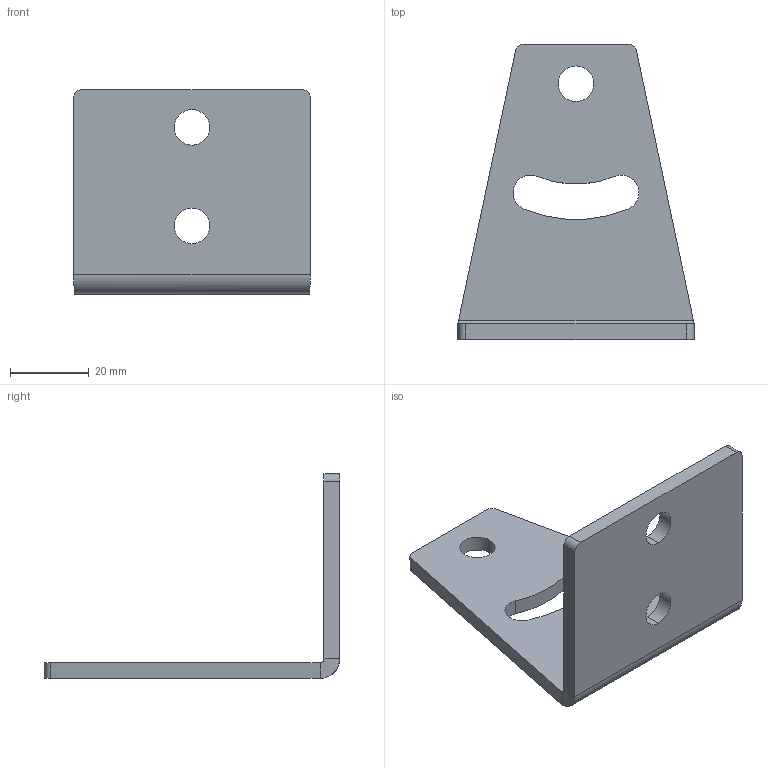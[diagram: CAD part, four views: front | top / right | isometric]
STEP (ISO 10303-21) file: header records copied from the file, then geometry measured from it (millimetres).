
FILE_DESCRIPTION (( 'STEP AP214' ), '1' );
FILE_NAME ('PL1 64.step', '2017-04-05T08:05:17', ( '' ), ( '' ), 'SwSTEP 2.0', 'SolidWorks 2015', '' );
FILE_SCHEMA (( 'AUTOMOTIVE_DESIGN' ));
Length unit declared in the file: millimetre
Products named in the file (1): PL1 64
Bounding box: 60 x 75 x 52 mm (x, y, z)
Volume: 23071.8 mm3; surface area: 13511.9 mm2
Topology: 1 solids, 1 shells, 29 faces, 73 edges, 46 vertices
Faces by surface type: cylinder 17, plane 10, bspline 2
Entity records: 969 total; most frequent: CARTESIAN_POINT 215, DIRECTION 155, ORIENTED_EDGE 146, EDGE_CURVE 73, AXIS2_PLACEMENT_3D 58, VERTEX_POINT 46, LINE 39, VECTOR 39
